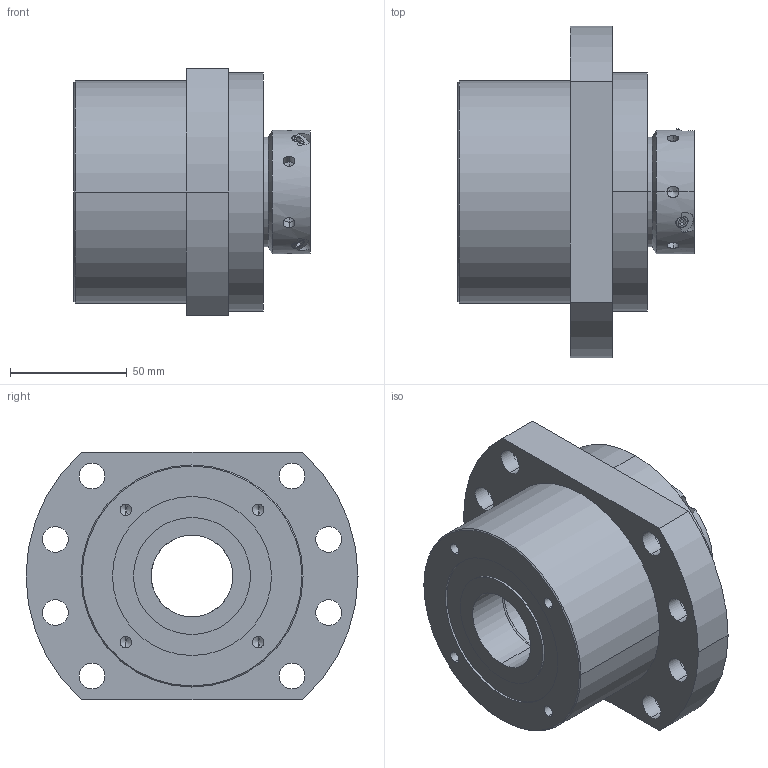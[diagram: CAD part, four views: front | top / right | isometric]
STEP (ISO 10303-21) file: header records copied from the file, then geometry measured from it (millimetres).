
FILE_DESCRIPTION (( 'STEP AP203' ), '1' );
FILE_NAME ('SWBK35-DFD.STEP', '2016-10-12T07:18:01', ( '' ), ( '' ), 'SwSTEP 2.0', 'SolidWorks 2015', '' );
FILE_SCHEMA (( 'CONFIG_CONTROL_DESIGN' ));
Length unit declared in the file: millimetre
Products named in the file (1): SWBK35-DFD
Bounding box: 101 x 142 x 106 mm (x, y, z)
Volume: 575130.5 mm3; surface area: 163314.7 mm2
Topology: 43 solids, 55 shells, 734 faces, 1801 edges, 1019 vertices
Faces by surface type: cylinder 248, plane 198, bspline 141, cone 111, torus 36
Entity records: 24711 total; most frequent: CARTESIAN_POINT 8853, DIRECTION 3370, ORIENTED_EDGE 3174, EDGE_CURVE 1587, AXIS2_PLACEMENT_3D 1407, VERTEX_POINT 1019, EDGE_LOOP 838, CIRCLE 813
